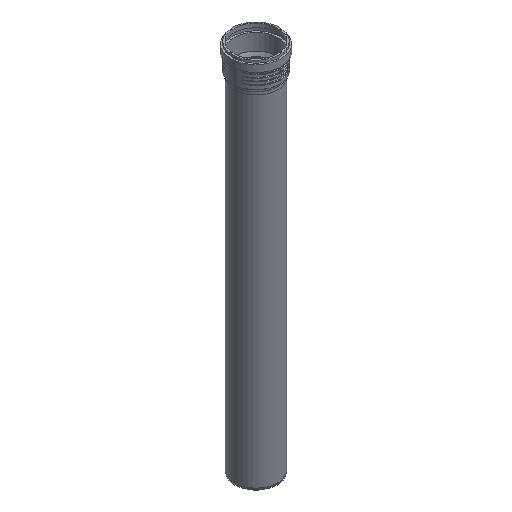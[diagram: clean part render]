
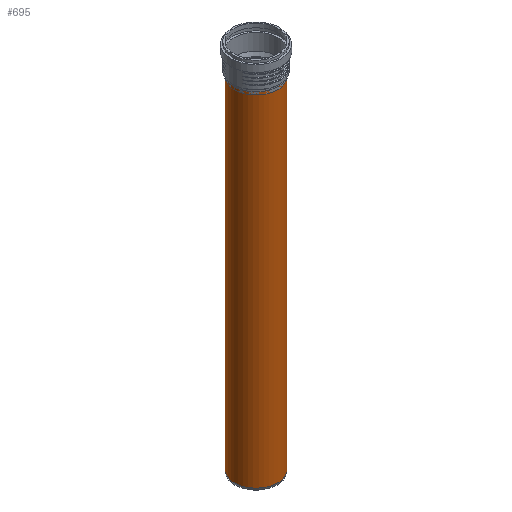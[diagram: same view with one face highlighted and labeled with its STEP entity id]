
A CAD part, isometric view. The second image highlights one B-rep face of the part: STEP entity #695.
In plain terms, the highlighted cylindrical face has radius 62.6 mm (diameter 125.2 mm), a full revolution.
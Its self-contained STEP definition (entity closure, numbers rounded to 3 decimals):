
#94=CYLINDRICAL_SURFACE($,#750,62.6);
#118=FACE_BOUND($,#198,.T.);
#153=FACE_OUTER_BOUND($,#197,.T.);
#197=EDGE_LOOP($,(#472));
#198=EDGE_LOOP($,(#473));
#272=CIRCLE($,#747,62.6);
#274=CIRCLE($,#751,62.6);
#311=VERTEX_POINT($,#1021);
#313=VERTEX_POINT($,#1027);
#382=EDGE_CURVE($,#311,#311,#272,.T.);
#384=EDGE_CURVE($,#313,#313,#274,.T.);
#472=ORIENTED_EDGE($,*,*,#384,.T.);
#473=ORIENTED_EDGE($,*,*,#382,.F.);
#695=ADVANCED_FACE($,(#153,#118),#94,.T.);
#747=AXIS2_PLACEMENT_3D($,#1022,#841,#842);
#750=AXIS2_PLACEMENT_3D($,#1026,#847,#848);
#751=AXIS2_PLACEMENT_3D($,#1028,#849,#850);
#841=DIRECTION('center_axis',(0.,0.,-1.));
#842=DIRECTION('ref_axis',(-1.,0.,0.));
#847=DIRECTION('center_axis',(0.,0.,1.));
#848=DIRECTION('ref_axis',(-1.,0.,0.));
#849=DIRECTION('center_axis',(0.,0.,-1.));
#850=DIRECTION('ref_axis',(-1.,0.,0.));
#1021=CARTESIAN_POINT('',(62.6,0.,-490.9));
#1022=CARTESIAN_POINT('Origin',(0.,0.,-490.9));
#1026=CARTESIAN_POINT('Origin',(0.,0.,0.));
#1027=CARTESIAN_POINT('',(62.6,0.,496.9));
#1028=CARTESIAN_POINT('Origin',(0.,0.,496.9));
